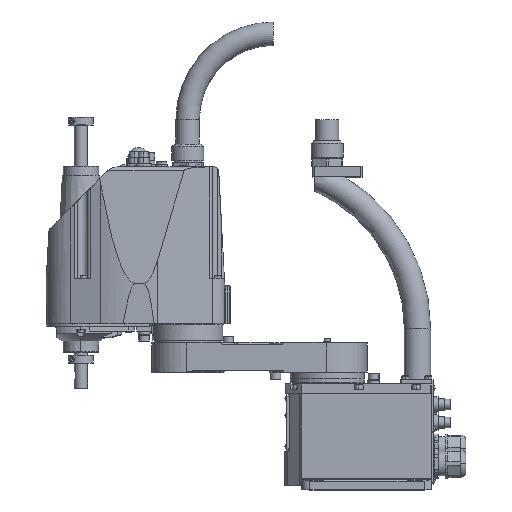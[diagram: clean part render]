
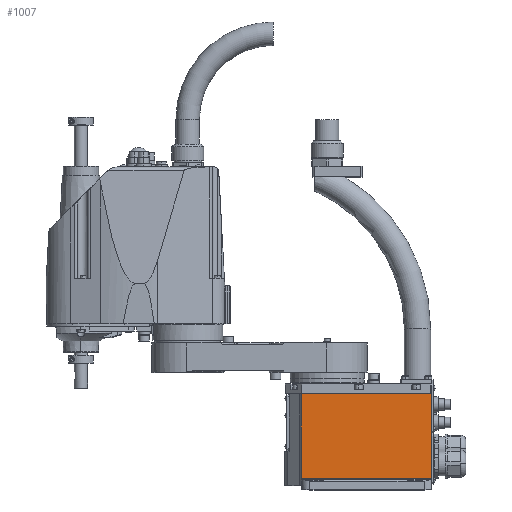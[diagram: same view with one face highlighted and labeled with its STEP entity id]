
A CAD part, top view. The second image highlights one B-rep face of the part: STEP entity #1007.
In plain terms, the highlighted planar face has unit normal (0, 0, 1).
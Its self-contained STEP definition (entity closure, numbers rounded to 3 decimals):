
#1007 = ADVANCED_FACE( '', ( #3808 ), #3809, .T. );
#3808 = FACE_OUTER_BOUND( '', #7856, .T. );
#3809 = PLANE( '', #7857 );
#7856 = EDGE_LOOP( '', ( #16482, #16483, #16484, #16485 ) );
#7857 = AXIS2_PLACEMENT_3D( '', #16486, #16487, #16488 );
#16482 = ORIENTED_EDGE( '', *, *, #26926, .T. );
#16483 = ORIENTED_EDGE( '', *, *, #26798, .T. );
#16484 = ORIENTED_EDGE( '', *, *, #26969, .T. );
#16485 = ORIENTED_EDGE( '', *, *, #26656, .F. );
#16486 = CARTESIAN_POINT( '', ( -51.5, 14., 50.5 ) );
#16487 = DIRECTION( '', ( 0., 0., 1. ) );
#16488 = DIRECTION( '', ( 0., -1., 0. ) );
#26656 = EDGE_CURVE( '', #32349, #32351, #32352, .T. );
#26798 = EDGE_CURVE( '', #32577, #32575, #32578, .T. );
#26926 = EDGE_CURVE( '', #32349, #32577, #32776, .T. );
#26969 = EDGE_CURVE( '', #32575, #32351, #32840, .T. );
#32349 = VERTEX_POINT( '', #41185 );
#32351 = VERTEX_POINT( '', #41187 );
#32352 = LINE( '', #41188, #41189 );
#32575 = VERTEX_POINT( '', #41642 );
#32577 = VERTEX_POINT( '', #41644 );
#32578 = LINE( '', #41645, #41646 );
#32776 = LINE( '', #42031, #42032 );
#32840 = LINE( '', #42153, #42154 );
#41185 = CARTESIAN_POINT( '', ( -31.897, 117., 50.5 ) );
#41187 = CARTESIAN_POINT( '', ( 127., 117., 50.5 ) );
#41188 = CARTESIAN_POINT( '', ( -51.5, 117., 50.5 ) );
#41189 = VECTOR( '', #52723, 1. );
#41642 = CARTESIAN_POINT( '', ( 127., 14., 50.5 ) );
#41644 = CARTESIAN_POINT( '', ( -31.897, 14., 50.5 ) );
#41645 = CARTESIAN_POINT( '', ( -51.5, 14., 50.5 ) );
#41646 = VECTOR( '', #52934, 1. );
#42031 = CARTESIAN_POINT( '', ( -31.897, 65.5, 50.5 ) );
#42032 = VECTOR( '', #53137, 1. );
#42153 = CARTESIAN_POINT( '', ( 127., 117., 50.5 ) );
#42154 = VECTOR( '', #53196, 1. );
#52723 = DIRECTION( '', ( 1., 0., 0. ) );
#52934 = DIRECTION( '', ( 1., 0., 0. ) );
#53137 = DIRECTION( '', ( 0., -1., 0. ) );
#53196 = DIRECTION( '', ( 0., 1., 0. ) );
